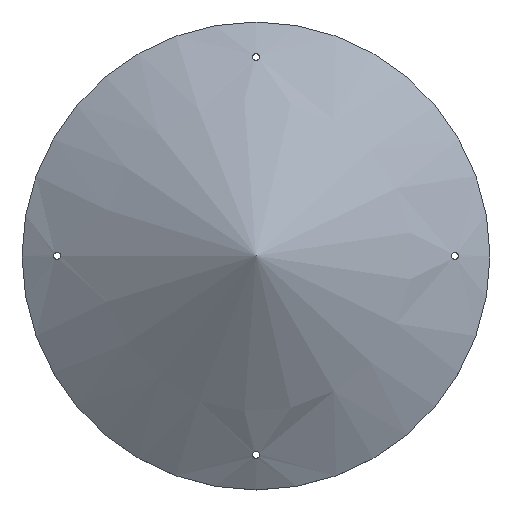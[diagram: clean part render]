
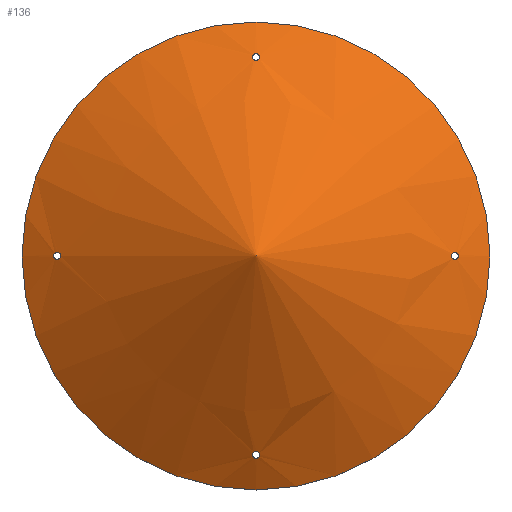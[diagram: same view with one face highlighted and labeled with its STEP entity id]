
A CAD part, top view. The second image highlights one B-rep face of the part: STEP entity #136.
In plain terms, the highlighted conical face has half-angle 60 degrees and reference radius 100 mm.
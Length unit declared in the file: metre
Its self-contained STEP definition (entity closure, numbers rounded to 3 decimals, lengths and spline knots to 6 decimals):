
#20=CIRCLE('',#160,0.1);
#24=VERTEX_LOOP('',#71);
#30=ORIENTED_EDGE('',*,*,#54,.F.);
#31=ORIENTED_EDGE('',*,*,#55,.F.);
#32=ORIENTED_EDGE('',*,*,#56,.F.);
#33=ORIENTED_EDGE('',*,*,#57,.F.);
#34=ORIENTED_EDGE('',*,*,#58,.F.);
#54=EDGE_CURVE('',#67,#67,#79,.T.);
#55=EDGE_CURVE('',#68,#68,#80,.T.);
#56=EDGE_CURVE('',#69,#69,#81,.T.);
#57=EDGE_CURVE('',#70,#70,#82,.T.);
#58=EDGE_CURVE('',#72,#72,#20,.T.);
#67=VERTEX_POINT('',#273);
#68=VERTEX_POINT('',#287);
#69=VERTEX_POINT('',#301);
#70=VERTEX_POINT('',#315);
#71=VERTEX_POINT('',#316);
#72=VERTEX_POINT('',#318);
#79=B_SPLINE_CURVE_WITH_KNOTS('',3,(#260,#261,#262,#263,#264,#265,#266,
#267,#268,#269,#270,#271,#272),.UNSPECIFIED.,.T.,.F.,(1,1,1,1,1,1,1,1,1,
1,1,1,1,1,1,1,1),(-0.003797,-0.002531,-0.001266,
0.,0.000633,0.001266,0.002531,
0.003797,0.005062,0.005695,0.006328,
0.007594,0.008859,0.010125,0.010758,
0.011391,0.012656),.UNSPECIFIED.);
#80=B_SPLINE_CURVE_WITH_KNOTS('',3,(#274,#275,#276,#277,#278,#279,#280,
#281,#282,#283,#284,#285,#286),.UNSPECIFIED.,.T.,.F.,(1,1,1,1,1,1,1,1,1,
1,1,1,1,1,1,1,1),(-0.003796,-0.002531,-0.001265,
0.,0.000633,0.001265,0.002531,
0.003796,0.005061,0.005694,0.006327,
0.007592,0.008858,0.010123,0.010756,
0.011388,0.012654),.UNSPECIFIED.);
#81=B_SPLINE_CURVE_WITH_KNOTS('',3,(#288,#289,#290,#291,#292,#293,#294,
#295,#296,#297,#298,#299,#300),.UNSPECIFIED.,.T.,.F.,(1,1,1,1,1,1,1,1,1,
1,1,1,1,1,1,1,1),(-0.002526,-0.001263,-0.000631,
0.,0.001263,0.002526,0.003788,
0.00442,0.005051,0.006314,0.007577,
0.00884,0.009471,0.010103,0.011365,
0.012628,0.013891),.UNSPECIFIED.);
#82=B_SPLINE_CURVE_WITH_KNOTS('',3,(#302,#303,#304,#305,#306,#307,#308,
#309,#310,#311,#312,#313,#314),.UNSPECIFIED.,.T.,.F.,(1,1,1,1,1,1,1,1,1,
1,1,1,1,1,1,1,1),(-0.002525,-0.001262,-0.000631,
0.,0.001262,0.002525,0.003787,
0.004418,0.005049,0.006312,0.007574,
0.008836,0.009467,0.010099,0.011361,
0.012623,0.013886),.UNSPECIFIED.);
#88=EDGE_LOOP('',(#30));
#89=EDGE_LOOP('',(#31));
#90=EDGE_LOOP('',(#32));
#91=EDGE_LOOP('',(#33));
#92=EDGE_LOOP('',(#34));
#113=FACE_BOUND('',#88,.T.);
#114=FACE_BOUND('',#89,.T.);
#115=FACE_BOUND('',#90,.T.);
#116=FACE_BOUND('',#91,.T.);
#117=FACE_BOUND('',#24,.T.);
#118=FACE_BOUND('',#92,.T.);
#134=CONICAL_SURFACE('',#159,0.1,1.047);
#136=ADVANCED_FACE('',(#113,#114,#115,#116,#117,#118),#134,.T.);
#159=AXIS2_PLACEMENT_3D('',#259,#176,#177);
#160=AXIS2_PLACEMENT_3D('',#317,#178,#179);
#176=DIRECTION('',(0.,0.,-1.));
#177=DIRECTION('',(-1.,0.,0.));
#178=DIRECTION('',(0.,0.,-1.));
#179=DIRECTION('',(-1.,0.,0.));
#259=CARTESIAN_POINT('',(0.,0.,0.));
#260=CARTESIAN_POINT('',(-0.001569,-0.085478,0.008376));
#261=CARTESIAN_POINT('',(-0.000938,-0.086298,0.007909));
#262=CARTESIAN_POINT('',(-0.00011,-0.086543,0.00777));
#263=CARTESIAN_POINT('',(0.000753,-0.086417,0.007841));
#264=CARTESIAN_POINT('',(0.001504,-0.085666,0.008268));
#265=CARTESIAN_POINT('',(0.001565,-0.084516,0.008931));
#266=CARTESIAN_POINT('',(0.00094,-0.083706,0.009405));
#267=CARTESIAN_POINT('',(0.000118,-0.083458,0.009551));
#268=CARTESIAN_POINT('',(-0.000751,-0.083581,0.009479));
#269=CARTESIAN_POINT('',(-0.0015,-0.084328,0.009041));
#270=CARTESIAN_POINT('',(-0.001569,-0.085478,0.008376));
#271=CARTESIAN_POINT('',(-0.000938,-0.086298,0.007909));
#272=CARTESIAN_POINT('',(-0.00011,-0.086543,0.00777));
#273=CARTESIAN_POINT('',(-0.000704,-0.086325,0.007894));
#274=CARTESIAN_POINT('',(0.085251,-0.001616,0.008506));
#275=CARTESIAN_POINT('',(0.086131,-0.001126,0.008004));
#276=CARTESIAN_POINT('',(0.086502,-0.000366,0.007793));
#277=CARTESIAN_POINT('',(0.086525,0.000509,0.00778));
#278=CARTESIAN_POINT('',(0.085882,0.001397,0.008145));
#279=CARTESIAN_POINT('',(0.084741,0.001614,0.008801));
#280=CARTESIAN_POINT('',(0.083872,0.001126,0.009308));
#281=CARTESIAN_POINT('',(0.0835,0.000374,0.009526));
#282=CARTESIAN_POINT('',(0.083473,-0.000505,0.009542));
#283=CARTESIAN_POINT('',(0.084113,-0.001393,0.009166));
#284=CARTESIAN_POINT('',(0.085251,-0.001616,0.008506));
#285=CARTESIAN_POINT('',(0.086131,-0.001126,0.008004));
#286=CARTESIAN_POINT('',(0.086502,-0.000366,0.007793));
#287=CARTESIAN_POINT('',(0.086196,-0.000905,0.007967));
#288=CARTESIAN_POINT('',(-0.000105,0.086544,0.007769));
#289=CARTESIAN_POINT('',(-0.000941,0.086297,0.007909));
#290=CARTESIAN_POINT('',(-0.001567,0.08548,0.008375));
#291=CARTESIAN_POINT('',(-0.0015,0.084331,0.009039));
#292=CARTESIAN_POINT('',(-0.000759,0.083588,0.009474));
#293=CARTESIAN_POINT('',(0.000101,0.083456,0.009552));
#294=CARTESIAN_POINT('',(0.000933,0.083699,0.009409));
#295=CARTESIAN_POINT('',(0.001565,0.084513,0.008933));
#296=CARTESIAN_POINT('',(0.001503,0.085665,0.008269));
#297=CARTESIAN_POINT('',(0.000759,0.086413,0.007843));
#298=CARTESIAN_POINT('',(-0.000105,0.086544,0.007769));
#299=CARTESIAN_POINT('',(-0.000941,0.086297,0.007909));
#300=CARTESIAN_POINT('',(-0.001567,0.08548,0.008375));
#301=CARTESIAN_POINT('',(-0.000704,0.086325,0.007894));
#302=CARTESIAN_POINT('',(-0.086503,-0.000362,0.007792));
#303=CARTESIAN_POINT('',(-0.08613,-0.001129,0.008004));
#304=CARTESIAN_POINT('',(-0.085253,-0.001615,0.008505));
#305=CARTESIAN_POINT('',(-0.084118,-0.001394,0.009163));
#306=CARTESIAN_POINT('',(-0.083479,-0.000519,0.009539));
#307=CARTESIAN_POINT('',(-0.083496,0.000358,0.009529));
#308=CARTESIAN_POINT('',(-0.083865,0.001122,0.009312));
#309=CARTESIAN_POINT('',(-0.084738,0.001614,0.008802));
#310=CARTESIAN_POINT('',(-0.08588,0.001397,0.008146));
#311=CARTESIAN_POINT('',(-0.086522,0.000517,0.007782));
#312=CARTESIAN_POINT('',(-0.086503,-0.000362,0.007792));
#313=CARTESIAN_POINT('',(-0.08613,-0.001129,0.008004));
#314=CARTESIAN_POINT('',(-0.085253,-0.001615,0.008505));
#315=CARTESIAN_POINT('',(-0.086196,-0.000905,0.007967));
#316=CARTESIAN_POINT('',(0.,0.,0.057735));
#317=CARTESIAN_POINT('',(0.,0.,0.));
#318=CARTESIAN_POINT('',(-0.1,0.,0.));
